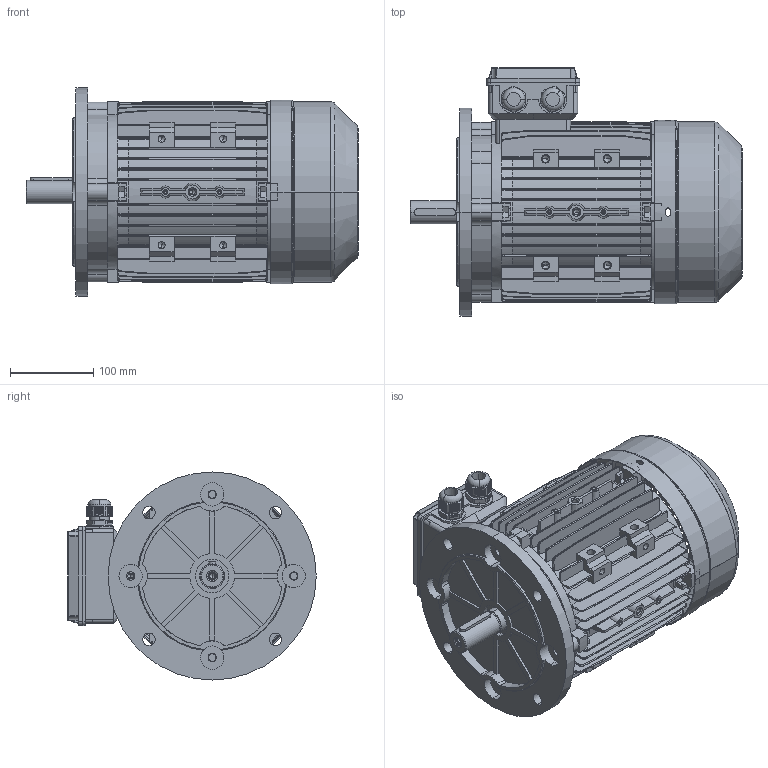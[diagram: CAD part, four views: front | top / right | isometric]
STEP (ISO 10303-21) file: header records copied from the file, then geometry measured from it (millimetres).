
FILE_DESCRIPTION (( 'STEP AP203' ), '1' );
FILE_NAME ('ME112M-4 B5 .STEP', '2014-08-18T11:22:50', ( '' ), ( '' ), 'SwSTEP 2.0', 'SolidWorks 2010', '' );
FILE_SCHEMA (( 'CONFIG_CONTROL_DESIGN' ));
Length unit declared in the file: millimetre
Products named in the file (8): M112傷裔B5; ME112M-4 B5 ; M112儂褲; M112瑞欶_105; MS132諉盄碟釱_2Holes; M25 cable gland; MS132諉盄碟裔; M112-Shaft drive end
Assembly tree (8 placements, depth 2):
  ME112M-4 B5 
    M25 cable gland  x2
    M112瑞欶_105
    MS132諉盄碟裔
    M112-Shaft drive end
    M112儂褲
    M112傷裔B5
    MS132諉盄碟釱_2Holes
Bounding box: 399 x 298.5 x 250 mm (x, y, z)
Volume: 1882090.4 mm3; surface area: 1030008.8 mm2
Topology: 10 solids, 10 shells, 3405 faces, 9158 edges, 5763 vertices
Faces by surface type: plane 1625, cylinder 959, bspline 452, cone 209, sphere 102, torus 58
Entity records: 150493 total; most frequent: CARTESIAN_POINT 75609, ORIENTED_EDGE 16222, DIRECTION 14072, EDGE_CURVE 8111, VERTEX_POINT 5129, AXIS2_PLACEMENT_3D 4747, VECTOR 4578, LINE 4578
